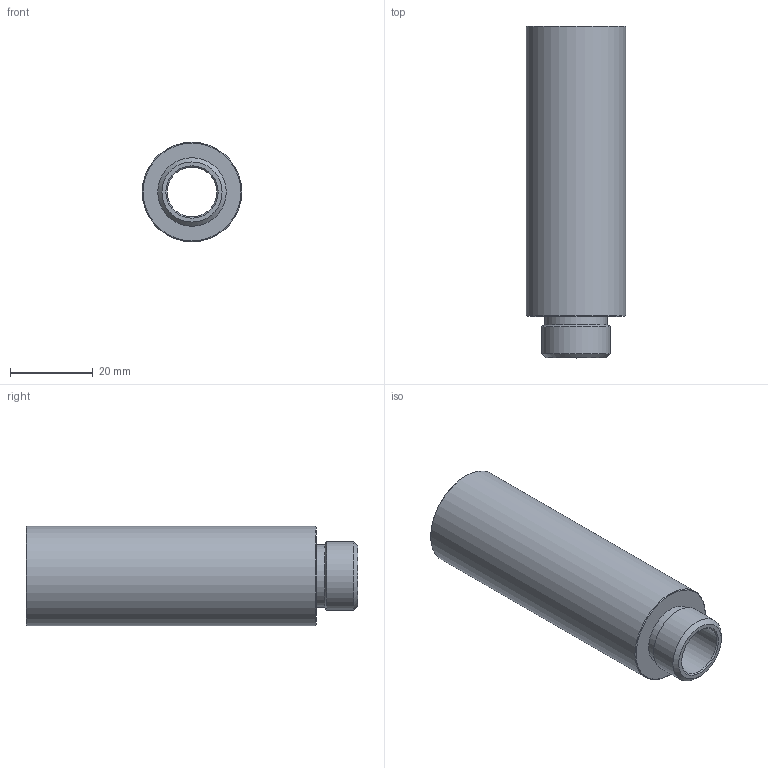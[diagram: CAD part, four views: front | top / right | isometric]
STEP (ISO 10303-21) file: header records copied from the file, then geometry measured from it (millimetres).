
FILE_DESCRIPTION(/* description */ ('SILEZIATORE G3/8"'),/* implementation_level */ '2;1');
FILE_NAME(/* name */ 'C:\PNX_VAULTFOLDER\Area Tecnica\Disegni\VARIE-3D\Componenti\1900 (vuoto)\19S38_S.stp',/* time_stamp */ '2019-09-13T14:47:03+02:00',/* author */ ('maniean1'),/* organization */ ('Pneumax S.p.A.'),/* preprocessor_version */ 'ST-DEVELOPER v17',/* originating_system */ 'Autodesk Inventor 2019',/* authorisation */ '');
FILE_SCHEMA (('AUTOMOTIVE_DESIGN { 1 0 10303 214 3 1 1 }'));
Length unit declared in the file: millimetre
Products named in the file (1): 19S38.S
Bounding box: 24 x 80 x 24 mm (x, y, z)
Volume: 24644 mm3; surface area: 9476.4 mm2
Topology: 1 solids, 1 shells, 13 faces, 32 edges, 22 vertices
Faces by surface type: cone 6, cylinder 4, plane 3
Full cylindrical faces by diameter (mm): 12 x1, 15 x1, 16.5 x1, 24 x1
Entity records: 467 total; most frequent: DIRECTION 82, CARTESIAN_POINT 68, ORIENTED_EDGE 64, AXIS2_PLACEMENT_3D 36, EDGE_CURVE 32, CIRCLE 22, VERTEX_POINT 22, EDGE_LOOP 16
